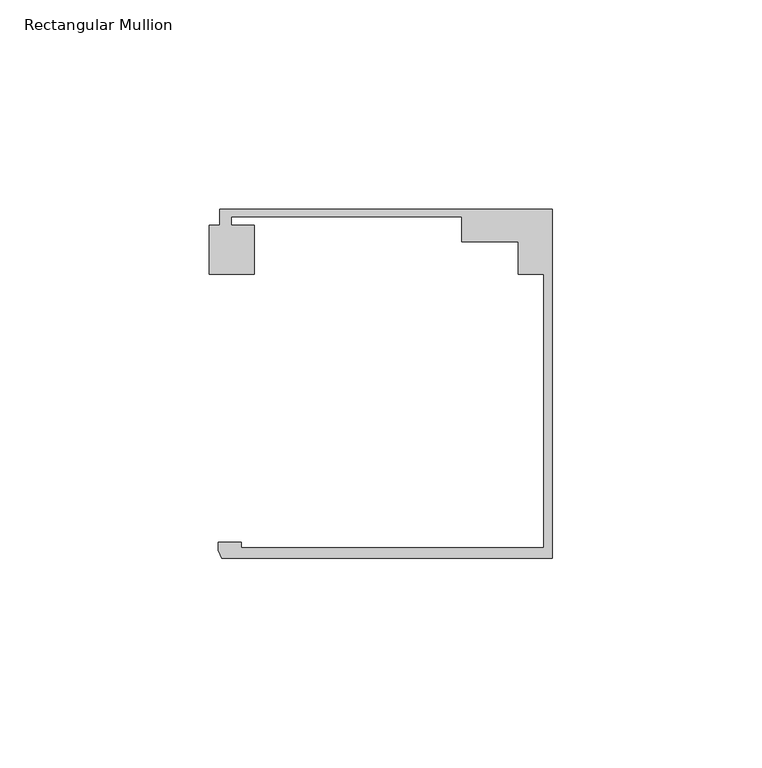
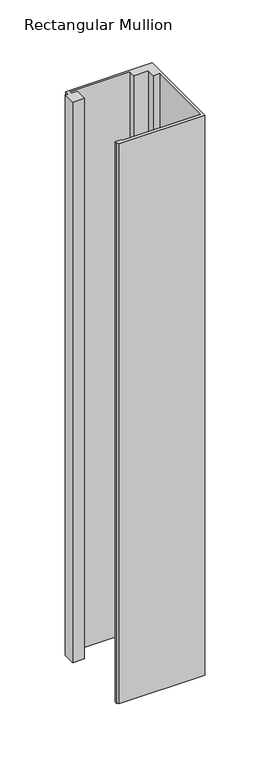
"""IFC4 building model written with IfcOpenShell, lengths in millimetres: member geometry, Rectangular Mullion : Danpal_Airpt_End-Mullion_B2."""

from ifc_helpers import new_model, si_unit, frame, origin, place, context, project, spatial, polyline, outline, extrude, source, transform, mapped, element, save


def rectangular_mullion_0c10ebcb(model_context):
    return source(origin(), model_context, "Body", "SweptSolid", [
        extrude(outline(polyline([(-2.0000001, -74.9940824), (-2.0000001, -9.7188964), (-8.1, -9.7188964), (-8.1, -1.8818054), (-21.5478166, -1.8818054), (-21.5478166, 4.0051512), (-76.6478166, 4.0051512), (-76.6478166, 2.0051513), (-71.1433532, 2.0051513), (-71.1433532, -9.6875514), (-81.8592324, -9.6875514), (-81.8592324, 2.0051513), (-79.3474874, 2.0051513), (-79.3474874, 5.8051514), (0.0, 5.8051514), (0.0, -77.4940825), (-78.8515009, -77.4940825), (-79.7784606, -75.5472671), (-79.7784606, -73.6940824), (-74.2474668, -73.6940824), (-74.2474668, -74.9940824), (-2.0000001, -74.9940824)])), frame((0.0, 0.0, -543.1466714), z_axis=(0.0, 0.0, 1.0), x_axis=(1.0, 0.0, 0.0)), (0.0, 0.0, 1.0), 543.1466714),
    ])


if __name__ == "__main__":
    model = new_model("IFC4")
    model_context = context("Model", 3, world=origin())
    ifc_project = project(units=[si_unit("LENGTHUNIT", "METRE", prefix="MILLI")], contexts=[model_context])
    site = spatial("IfcSite", under=ifc_project)
    building = spatial("IfcBuilding", under=site)
    placement = place(None, origin())
    rectangular_mullion_shape = rectangular_mullion_0c10ebcb(model_context)
    element("IfcMember", 1, ObjectType="Rectangular Mullion : Danpal_Airpt_End-Mullion_B2", at=placement, inside=building, context=model_context, shape_type="MappedRepresentation", body=[
        mapped(rectangular_mullion_shape, transform((0.0, 0.0, 0.0), x_axis=(1.0, 0.0, 0.0), y_axis=(0.0, 1.0, 0.0), z_axis=(0.0, 0.0, 1.0))),
    ])
    save(model, "model.ifc")
